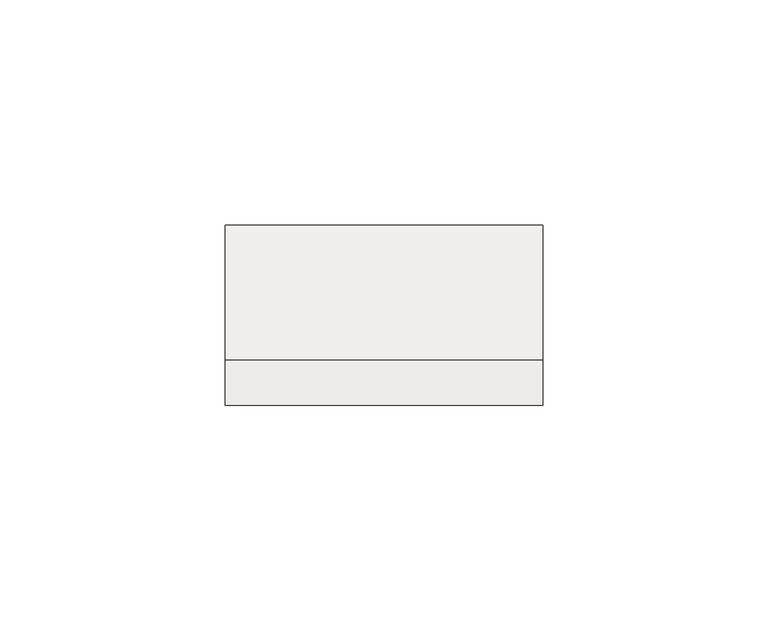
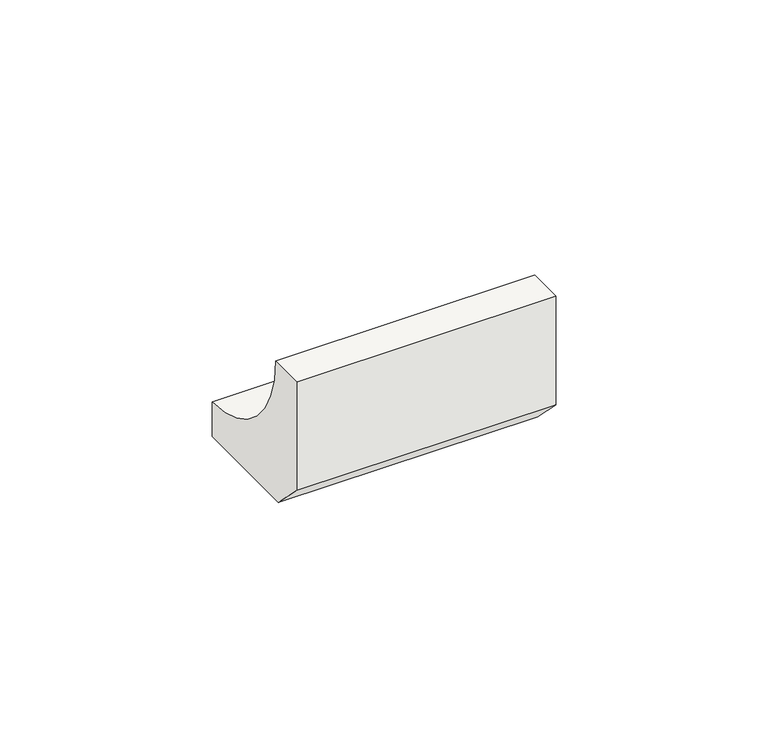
"""IFC4 building model written with IfcOpenShell, lengths in millimetres: slab geometry, ROSA GRES_112 : Pieza 112_Aqua_Plomo_Liso."""

from ifc_helpers import new_model, si_unit, point, frame, frame_2d, origin, place, context, project, spatial, polyline, circle_curve, trimmed, segment, composite_curve, outline, extrude, source, transform, mapped, element, save


def slab_17efec83(model_context):
    return source(origin(), model_context, "Body", "SweptSolid", [
        extrude(outline(composite_curve([segment(polyline([(0.0, 8.7114978), (0.0, 40.0), (9.9734114, 40.0)]), True, "CONTINUOUS"), segment(trimmed(circle_curve(frame_2d((39.9955547, 39.9955547)), 30.0221435), [point((9.9734114, 40.0))], [point((40.0, 9.9734114))], True, "CARTESIAN"), True, "CONTINUOUS"), segment(polyline([(40.0, 9.9734114), (40.0, 0.0), (8.7114978, 0.0), (0.0, 8.7114978)]), True, "CONTINUOUS")], self_intersect=False)), frame((0.0, 0.0, 0.0), z_axis=(1.0, 0.0, 0.0), x_axis=(0.0, 1.0, 0.0)), (0.0, 0.0, 1.0), 70.4882455),
    ])


if __name__ == "__main__":
    model = new_model("IFC4")
    model_context = context("Model", 3, world=origin())
    ifc_project = project(units=[si_unit("LENGTHUNIT", "METRE", prefix="MILLI")], contexts=[model_context])
    site = spatial("IfcSite", under=ifc_project)
    building = spatial("IfcBuilding", under=site)
    placement = place(None, origin())
    slab_shape = slab_17efec83(model_context)
    element("IfcSlab", 1, ObjectType="ROSA GRES_112 : Pieza 112_Aqua_Plomo_Liso", at=placement, inside=building, context=model_context, shape_type="MappedRepresentation", body=[
        mapped(slab_shape, transform((0.0, 0.0, 0.0), x_axis=(1.0, 0.0, 0.0), y_axis=(0.0, 1.0, 0.0), z_axis=(0.0, 0.0, 1.0))),
    ])
    save(model, "model.ifc")
